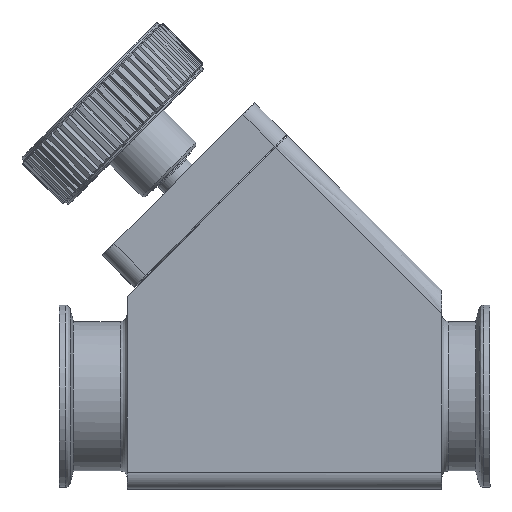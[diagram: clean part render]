
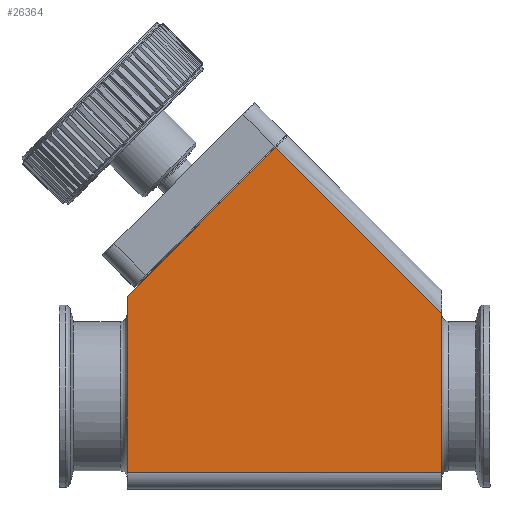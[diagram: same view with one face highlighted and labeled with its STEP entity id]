
A CAD part, top view. The second image highlights one B-rep face of the part: STEP entity #26364.
In plain terms, the highlighted free-form (B-spline) face has degree [1, 1] with [2, 2] control points.
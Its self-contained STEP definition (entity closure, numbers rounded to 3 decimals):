
#26229=CARTESIAN_POINT('V5',(95.,52.853,
   65.0));
#26230=VERTEX_POINT('V5',#26229);
#26271=CARTESIAN_POINT('V4',(95.,5.,
   65.0));
#26272=VERTEX_POINT('V4',#26271);
#26286=CARTESIAN_POINT('E4',(95.,52.853,
   65.0));
#26287=CARTESIAN_POINT('E4',(95.0,5.,65.0));
#26288=B_SPLINE_CURVE_WITH_KNOTS('E4',1,(#26286,#26287),
   .POLYLINE_FORM.,.F.,.U.,(2,2),(0.118,
   0.917),.UNSPECIFIED.);
#26289=EDGE_CURVE('E4',#26230,#26272,#26288,.T.);
#26313=CARTESIAN_POINT('V3',(0.0,5.,65.0));
#26314=VERTEX_POINT('V3',#26313);
#26328=CARTESIAN_POINT('E3',(0.0,5.,65.0));
#26329=CARTESIAN_POINT('E3',(95.,5.,
   65.0));
#26330=B_SPLINE_CURVE_WITH_KNOTS('E3',1,(#26328,#26329),
   .POLYLINE_FORM.,.F.,.U.,(2,2),(2.,
   14.096),.UNSPECIFIED.);
#26331=EDGE_CURVE('E3',#26314,#26272,#26330,.T.);
#26336=CARTESIAN_POINT('F1',(-4.75,-5.448,
   65.0));
#26337=CARTESIAN_POINT('F1',(99.75,-5.448,
   65.0));
#26338=CARTESIAN_POINT('F1',(-4.75,114.41,
   65.));
#26339=CARTESIAN_POINT('F1',(99.75,114.41,
   65.));
#26340=QUASI_UNIFORM_SURFACE('F1',1,1,((#26336,#26338),(#26337,
   #26339)),.PLANE_SURF.,.F.,.F.,.U.);
#26341=CARTESIAN_POINT('V1',(44.901,102.952,
   65.));
#26342=VERTEX_POINT('V1',#26341);
#26343=CARTESIAN_POINT('V2',(0.,58.05,65.0)
   );
#26344=VERTEX_POINT('V2',#26343);
#26345=CARTESIAN_POINT('E1',(44.901,102.952,
   65.));
#26346=CARTESIAN_POINT('E1',(0.,58.05,
   65.));
#26347=QUASI_UNIFORM_CURVE('E1',1,(#26345,#26346),.POLYLINE_FORM.,
   .F.,.U.);
#26348=EDGE_CURVE('E1',#26342,#26344,#26347,.T.);
#26349=ORIENTED_EDGE('E1',*,*,#26348,.F.);
#26350=CARTESIAN_POINT('E5',(95.,52.853,
   65.0));
#26351=CARTESIAN_POINT('E5',(44.901,102.952,
   65.));
#26352=B_SPLINE_CURVE_WITH_KNOTS('E5',1,(#26350,#26351),
   .POLYLINE_FORM.,.F.,.U.,(2,2),(2.0,11.021),
   .UNSPECIFIED.);
#26353=EDGE_CURVE('E5',#26230,#26342,#26352,.T.);
#26354=ORIENTED_EDGE('E5',*,*,#26353,.F.);
#26355=ORIENTED_EDGE('F29',*,*,#26289,.T.);
#26356=ORIENTED_EDGE('F6',*,*,#26331,.F.);
#26357=CARTESIAN_POINT('E2',(0.0,5.,65.0));
#26358=CARTESIAN_POINT('E2',(0.0,58.05,65.0));
#26359=B_SPLINE_CURVE_WITH_KNOTS('E2',1,(#26357,#26358),
   .POLYLINE_FORM.,.F.,.U.,(2,2),(0.079,
   0.921),.UNSPECIFIED.);
#26360=EDGE_CURVE('E2',#26314,#26344,#26359,.T.);
#26361=ORIENTED_EDGE('E2',*,*,#26360,.T.);
#26362=EDGE_LOOP('F1',(#26349,#26354,#26355,#26356,#26361));
#26363=FACE_OUTER_BOUND('F1',#26362,.F.);
#26364=ADVANCED_FACE('F1',(#26363),#26340,.T.);
